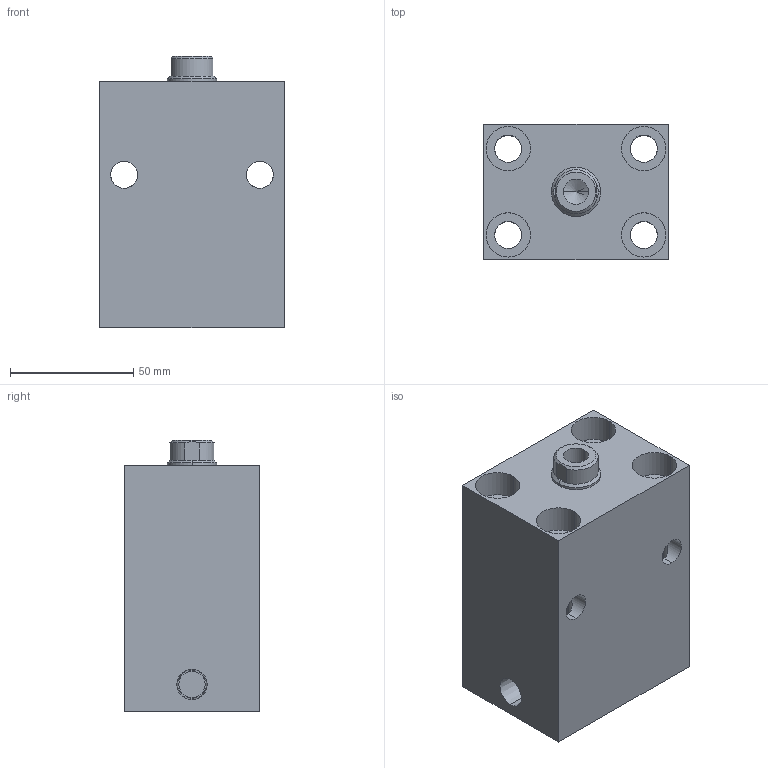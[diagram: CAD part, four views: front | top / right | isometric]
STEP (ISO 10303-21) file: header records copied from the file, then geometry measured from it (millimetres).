
FILE_DESCRIPTION (( 'STEP AP203' ), '1' );
FILE_NAME ('HBC-32S-20N装配体.STEP', '2019-11-29T08:56:57', ( '微软用户' ), ( '微软中国' ), 'SwSTEP 2.0', 'SolidWorks 2012', '' );
FILE_SCHEMA (( 'CONFIG_CONTROL_DESIGN' ));
Length unit declared in the file: millimetre
Products named in the file (3): HBC-32S-20N掛极; HBC-32S-20N活塞杆; HBC-32S-20N蚾饜极
Assembly tree (2 placements, depth 2):
  HBC-32S-20N蚾饜极
    HBC-32S-20N掛极
    HBC-32S-20N活塞杆
Bounding box: 75 x 55 x 110 mm (x, y, z)
Volume: 360242.5 mm3; surface area: 55070.2 mm2
Topology: 2 solids, 2 shells, 73 faces, 178 edges, 107 vertices
Faces by surface type: cylinder 46, plane 19, cone 8
Entity records: 2473 total; most frequent: CARTESIAN_POINT 481, DIRECTION 366, ORIENTED_EDGE 352, EDGE_CURVE 176, AXIS2_PLACEMENT_3D 148, VERTEX_POINT 107, EDGE_LOOP 93, ADVANCED_FACE 73
